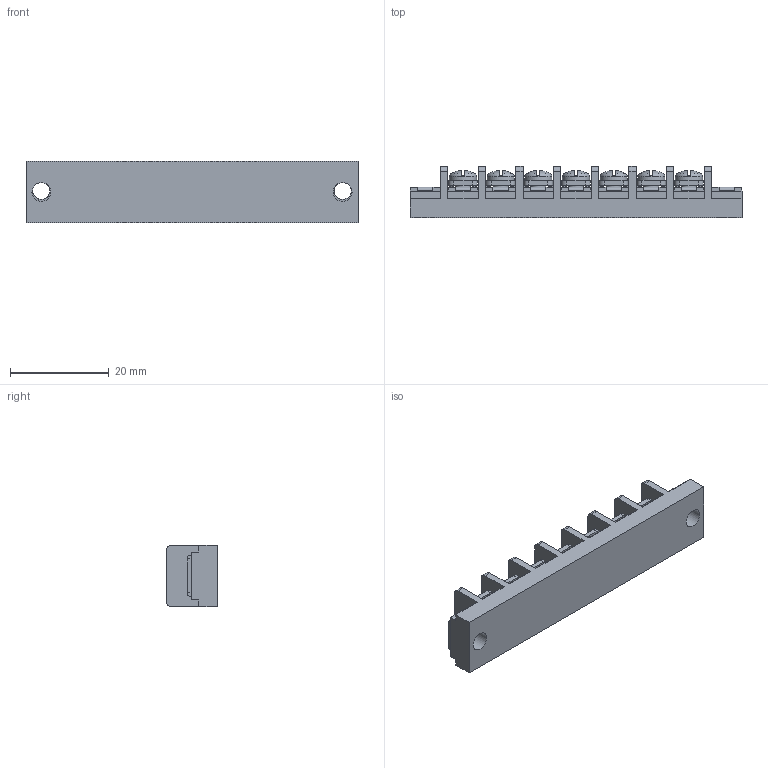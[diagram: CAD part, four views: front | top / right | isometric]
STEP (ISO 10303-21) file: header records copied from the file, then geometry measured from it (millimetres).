
FILE_DESCRIPTION(/* description */ ('Alibre Inc.'),/* implementation_level */ '2;1');
FILE_NAME(/* name */ 'export0',/* time_stamp */ '2015-10-26T18:12:10+09:00',/* author */ (''),/* organization */ (''),/* preprocessor_version */ 'ST-DEVELOPER v14',/* originating_system */ 'Alibre',/* authorisation */ '');
FILE_SCHEMA (('CONFIG_CONTROL_DESIGN'));
Length unit declared in the file: centimetre
Products named in the file (1): ID_1
Bounding box: 67.16 x 10.3 x 12.5 mm (x, y, z)
Volume: 5669.9 mm3; surface area: 5068.7 mm2
Topology: 1 solids, 17 shells, 1087 faces, 2963 edges, 1953 vertices
Faces by surface type: plane 840, bspline 104, cylinder 87, cone 28, torus 14, sphere 14
Full cylindrical faces by diameter (mm): 3 x7, 3.5 x2, 3.8 x2, 5.5 x7
Entity records: 32582 total; most frequent: CARTESIAN_POINT 7338, ORIENTED_EDGE 5798, DIRECTION 3922, EDGE_CURVE 2899, VECTOR 2086, LINE 2086, VERTEX_POINT 1921, AXIS2_PLACEMENT_3D 1299
